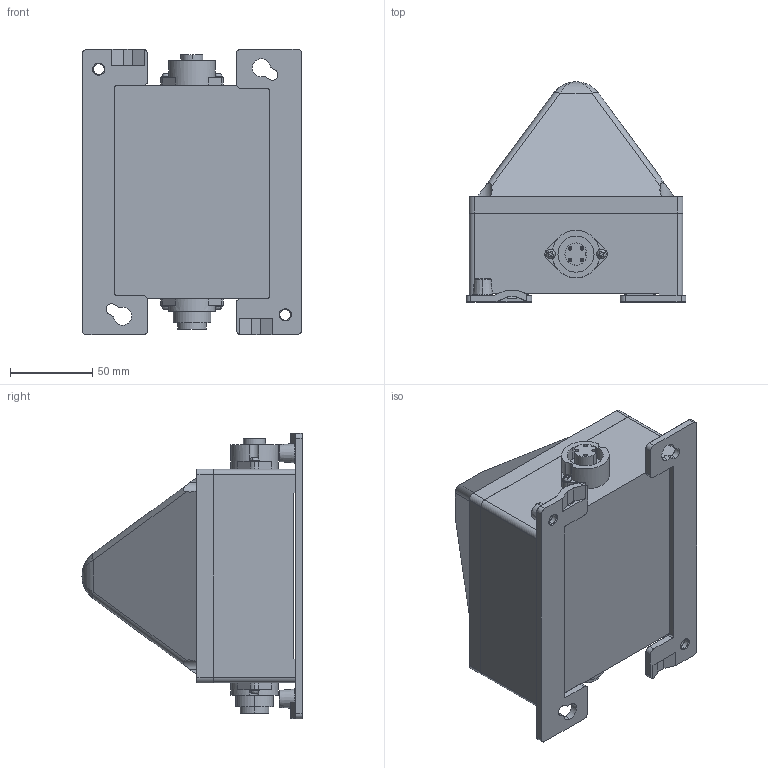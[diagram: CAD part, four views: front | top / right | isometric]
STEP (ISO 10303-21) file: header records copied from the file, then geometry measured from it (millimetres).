
FILE_DESCRIPTION (( 'STEP AP214' ), '1' );
FILE_NAME ('Quadro R-ST-30029-001-1.STEP', '2011-06-10T13:20:12', ( ' ' ), ( ' ' ), 'SwSTEP 2.0', 'SolidWorks 2011', '' );
FILE_SCHEMA (( 'AUTOMOTIVE_DESIGN' ));
Length unit declared in the file: millimetre
Products named in the file (1): Quadro R-ST-30029-001-1
Bounding box: 133.9 x 134 x 173.9 mm (x, y, z)
Surface area: 104756.6 mm2 (no closed solid volume)
Topology: 0 solids, 18 shells, 406 faces, 1355 edges, 939 vertices
Faces by surface type: plane 193, cylinder 145, torus 32, cone 20, bspline 16
Entity records: 19737 total; most frequent: CARTESIAN_POINT 3635, DIRECTION 2437, ORIENTED_EDGE 2254, EDGE_CURVE 1351, VERTEX_POINT 939, AXIS2_PLACEMENT_3D 819, VECTOR 799, LINE 799
